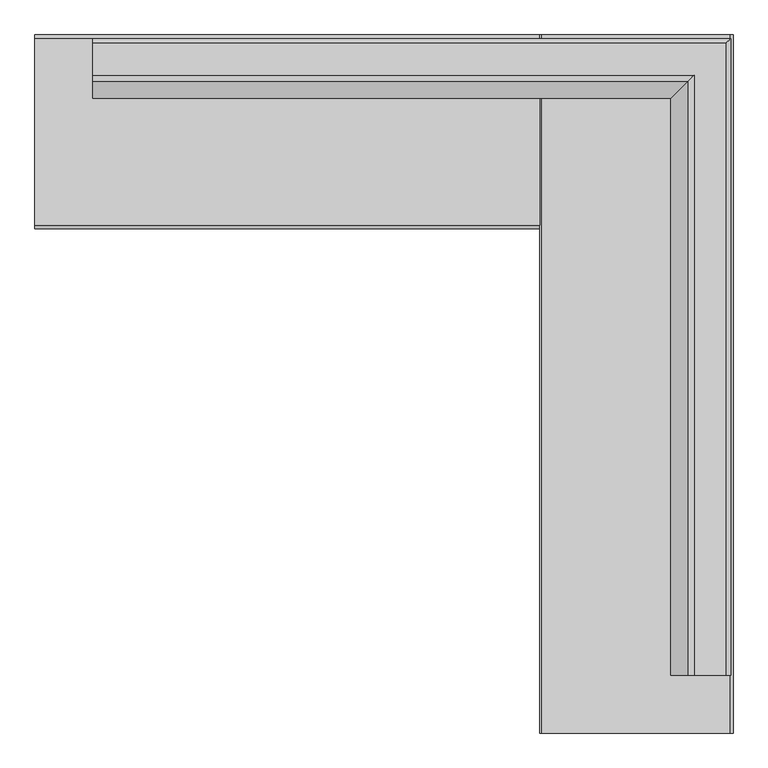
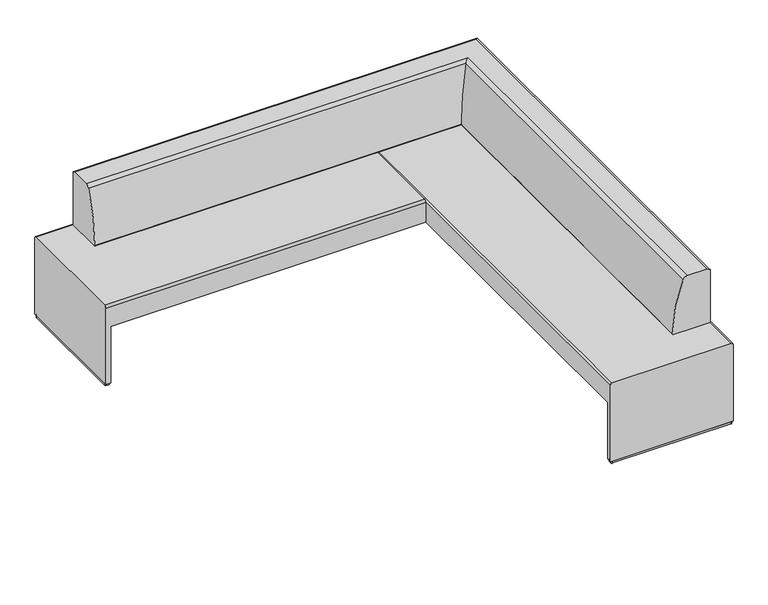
"""IFC4 building model written with IfcOpenShell, lengths in millimetres: furniture geometry, Coalesse_AM_Seating_Bench_Together_RightCorner : 8in Back Offset - 96.5D x 96.5W."""

from ifc_helpers import new_model, si_unit, point, frame, frame_2d, origin, origin_with_axes, place, context, project, spatial, polyline, circle_curve, ellipse_curve, trimmed, segment, composite_curve, outline, extrude, source, transform, mapped, element, save
from ifc_brep_helpers import plane_surface, cylinder_surface, advanced_brep


def furniture_85340afa(model_context):
    return source(origin(), model_context, "Body", "SolidModel", [
        advanced_brep(
        [(774.5287475, 2999.7334745, 461.0687949), (764.3687475, 2999.7334745, 471.2287949), (103.5774354, 2999.7334745, 471.2287949), (95.2070699, 2999.7334745, 462.8584293), (95.2070699, 2999.7334745, 12.7976677), (774.5287475, 2999.7334745, 12.7976677), (95.2070699, 5450.8334745, 343.3718099), (95.2070699, 5450.8334745, 462.8584293), (103.5774354, 5450.8334745, 471.2287949), (764.3687475, 5450.8334745, 471.2287949), (774.5287475, 5450.8334745, 461.0687949), (774.5287475, 5450.8334745, 343.3718099), (774.5287475, 3025.7251879, 343.3718099), (432.8174347, 3070.1341192, 343.3718099), (95.2070699, 3025.7251879, 343.3718099), (774.5287475, 3025.7251879, 12.7976677), (95.2070699, 3025.7251879, 12.7976677), (432.8174347, 3070.1341192, 12.7976677)],
        [
            (0, 1, circle_curve(frame((764.3687475, 2999.7334745, 461.0687949), z_axis=(0.0, -1.0, 0.0), x_axis=(-1.0, 0.0, 0.0)), 10.16)),
            (1, 2),
            (2, 3, circle_curve(frame((103.5774354, 2999.7334745, 462.8584293), z_axis=(0.0, -1.0, 0.0), x_axis=(-1.0, 0.0, 0.0)), 8.3703656)),
            (3, 4),
            (4, 5),
            (5, 0),
            (6, 7),
            (7, 8, circle_curve(frame((103.5774354, 5450.8334745, 462.8584293), z_axis=(0.0, 1.0, 0.0), x_axis=(-1.0, 0.0, 0.0)), 8.3703656)),
            (8, 9),
            (9, 10, circle_curve(frame((764.3687475, 5450.8334745, 461.0687949), z_axis=(0.0, 1.0, 0.0), x_axis=(-1.0, 0.0, 0.0)), 10.16)),
            (10, 11),
            (11, 6),
            (11, 12),
            (12, 13),
            (13, 14),
            (14, 6),
            (5, 15),
            (15, 12),
            (10, 0),
            (9, 1),
            (8, 2),
            (7, 3),
            (14, 16),
            (16, 4),
            (17, 15),
            (16, 17),
            (13, 17),
        ],
        [
            plane_surface(frame((733.0421326, 2999.7334745, 343.3718099), z_axis=(0.0, -1.0, 0.0), x_axis=(1.0, 0.0, 0.0))),
            plane_surface(frame((733.0421326, 5450.8334745, 343.3718099), z_axis=(0.0, 1.0, 0.0), x_axis=(-1.0, 0.0, 0.0))),
            plane_surface(frame((95.2070699, 2999.7334745, 343.3718099), z_axis=(0.0, 0.0, -1.0), x_axis=(0.0, 1.0, 0.0))),
            plane_surface(frame((774.5287475, 2999.7334745, 343.3718099), z_axis=(1.0, 0.0, 0.0), x_axis=(0.0, 1.0, 0.0))),
            cylinder_surface(frame((764.3687475, 5450.8334745, 461.0687949), z_axis=(0.0, -1.0, 0.0), x_axis=(-1.0, 0.0, 0.0)), 10.16),
            plane_surface(frame((764.3687475, 2999.7334745, 471.2287949), z_axis=(0.0, 0.0, 1.0), x_axis=(0.0, 1.0, 0.0))),
            cylinder_surface(frame((103.5774354, 5450.8334745, 462.8584293), z_axis=(0.0, -1.0, 0.0), x_axis=(-1.0, 0.0, 0.0)), 8.3703656),
            plane_surface(frame((95.2070699, 2999.7334745, 462.8584293), z_axis=(-1.0, 0.0, 0.0), x_axis=(0.0, 1.0, 0.0))),
            plane_surface(frame((432.8174347, 3070.1341192, 12.7976677), z_axis=(0.0, 0.0, -1.0000000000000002), x_axis=(0.9914594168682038, 0.13041558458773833, 0.0))),
            plane_surface(frame((432.8174347, 3070.1341192, 343.3718099), z_axis=(-0.13041558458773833, 0.9914594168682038, 0.0), x_axis=(0.0, 0.0, -1.0))),
            plane_surface(frame((774.5287475, 3025.7251879, 343.3718099), z_axis=(0.12887659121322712, 0.991660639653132, 0.0), x_axis=(0.0, 0.0, -1.0))),
        ],
        [
            (0, [[1, 2, 3, 4, 5, 6]]),
            (1, [[7, 8, 9, 10, 11, 12]]),
            (2, [[-12, 13, 14, 15, 16]]),
            (3, [[-6, 17, 18, -13, -11, 19]]),
            (4, [[-1, -19, -10, 20]]),
            (5, [[-2, -20, -9, 21]]),
            (6, [[-3, -21, -8, 22]]),
            (7, [[-4, -22, -7, -16, 23, 24]]),
            (8, [[25, -17, -5, -24, 26]]),
            (9, [[-26, -23, -15, 27]]),
            (10, [[-25, -27, -14, -18]]),
        ],
    ),
        advanced_brep(
        [(-1676.5712525, 4783.2670813, 471.2287949), (-1676.5712525, 5438.3536785, 471.2287949), (-1676.5712525, 5451.0536785, 458.5287949), (-1676.5712525, 5451.0536785, 12.7976677), (-1676.5712525, 4770.5670813, 12.7976677), (-1676.5712525, 4770.5670813, 458.5287949), (95.2070699, 4783.2670813, 471.2287949), (95.2070699, 4770.5670813, 458.5287949), (95.2070699, 4770.5670813, 343.3718099), (95.2070699, 5451.0536785, 343.3718099), (95.2070699, 5451.0536785, 458.5287949), (95.2070699, 5438.3536785, 471.2287949), (-1650.7015245, 5451.0536785, 343.3718099), (-1650.7025858, 5451.0536785, 12.7976677), (-1650.3955542, 4770.5670813, 343.3718099), (-1606.0629721, 5108.4198031, 343.3718099), (-1650.3944726, 4770.5670813, 12.7976677), (-1606.0629721, 5108.4198031, 12.7976677)],
        [
            (0, 1),
            (1, 2, circle_curve(frame((-1676.5712525, 5438.3536785, 458.5287949), z_axis=(-1.0, 0.0, 0.0), x_axis=(0.0, 1.0, 0.0)), 12.7)),
            (2, 3),
            (3, 4),
            (4, 5),
            (5, 0, circle_curve(frame((-1676.5712525, 4783.2670813, 458.5287949), z_axis=(-1.0, 0.0, 0.0), x_axis=(0.0, 1.0, 0.0)), 12.7)),
            (6, 7, circle_curve(frame((95.2070699, 4783.2670813, 458.5287949), z_axis=(1.0, 0.0, 0.0), x_axis=(0.0, 1.0, 0.0)), 12.7)),
            (7, 8),
            (8, 9),
            (9, 10),
            (10, 11, circle_curve(frame((95.2070699, 5438.3536785, 458.5287949), z_axis=(1.0, 0.0, 0.0), x_axis=(0.0, 1.0, 0.0)), 12.7)),
            (11, 6),
            (0, 6),
            (11, 1),
            (10, 2),
            (9, 12),
            (12, 13),
            (13, 3),
            (8, 14),
            (14, 15),
            (15, 12),
            (4, 16),
            (16, 14),
            (7, 5),
            (17, 16),
            (13, 17),
            (15, 17),
        ],
        [
            plane_surface(frame((-1676.5712525, 5450.8334745, 471.2287949), z_axis=(-1.0, 0.0, 0.0), x_axis=(0.0, 1.0, 0.0))),
            plane_surface(frame((95.2070699, 5450.8334745, 471.2287949), z_axis=(1.0, 0.0, 0.0), x_axis=(0.0, -1.0, 0.0))),
            plane_surface(frame((-1676.5712525, 4783.2670813, 471.2287949), z_axis=(0.0, 0.0, 1.0), x_axis=(1.0, 0.0, 0.0))),
            cylinder_surface(frame((95.2070699, 5438.3536785, 458.5287949), z_axis=(-1.0, 0.0, 0.0), x_axis=(0.0, 1.0, 0.0)), 12.7),
            plane_surface(frame((-1676.5712525, 5451.0536785, 458.5287949), z_axis=(0.0, 1.0, 0.0), x_axis=(1.0, 0.0, 0.0))),
            plane_surface(frame((-1676.5712525, 5451.0536785, 343.3718099), z_axis=(0.0, 0.0, -1.0), x_axis=(1.0, 0.0, 0.0))),
            plane_surface(frame((-1676.5712525, 4770.5670813, 343.3718099), z_axis=(0.0, -1.0, 0.0), x_axis=(1.0, 0.0, 0.0))),
            cylinder_surface(frame((95.2070699, 4783.2670813, 458.5287949), z_axis=(-1.0, 0.0, 0.0), x_axis=(0.0, 1.0, 0.0)), 12.7),
            plane_surface(frame((-1650.7025858, 5451.0618248, 12.7976677), z_axis=(0.0, 0.0, -1.0), x_axis=(0.12918886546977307, -0.9916200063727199, 0.0))),
            plane_surface(frame((-1606.0629721, 5108.4198031, 343.3718099), z_axis=(0.9916200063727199, 0.12918886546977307, 0.0), x_axis=(0.0, 0.0, -1.0))),
            plane_surface(frame((-1650.3944726, 4770.5753245, 343.3718099), z_axis=(0.9915004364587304, -0.1301033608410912, 0.0), x_axis=(0.0, 0.0, -1.0))),
        ],
        [
            (0, [[1, 2, 3, 4, 5, 6]]),
            (1, [[7, 8, 9, 10, 11, 12]]),
            (2, [[-1, 13, -12, 14]]),
            (3, [[-2, -14, -11, 15]]),
            (4, [[-3, -15, -10, 16, 17, 18]]),
            (5, [[-9, 19, 20, 21, -16]]),
            (6, [[-5, 22, 23, -19, -8, 24]]),
            (7, [[-6, -24, -7, -13]]),
            (8, [[25, -22, -4, -18, 26]]),
            (9, [[-26, -17, -21, 27]]),
            (10, [[-25, -27, -20, -23]]),
        ],
    ),
        extrude(outline(composite_curve([segment(polyline([(-1606.5189643, 5113.2843855), (-1651.5193515, 4782.1665875)]), True, "CONTINUOUS"), segment(trimmed(circle_curve(frame_2d((-1657.8115092, 4783.0217198)), 6.35), [point((-1651.5193515, 4782.1665875))], [point((-1657.8166959, 4776.6717219))], False, "CARTESIAN"), True, "CONTINUOUS"), segment(polyline([(-1657.8166959, 4776.6717219), (-1670.2739607, 4776.6818969)]), True, "CONTINUOUS"), segment(trimmed(circle_curve(frame_2d((-1670.268774, 4783.0318948)), 6.35), [point((-1670.2739607, 4776.6818969))], [point((-1676.6187719, 4783.0370815))], False, "CARTESIAN"), True, "CONTINUOUS"), segment(polyline([(-1676.6187719, 4783.0370815), (-1676.0832557, 5438.6681616)]), True, "CONTINUOUS"), segment(trimmed(circle_curve(frame_2d((-1669.7332578, 5438.6629749)), 6.35), [point((-1676.0832557, 5438.6681616))], [point((-1669.7280712, 5445.0129728))], False, "CARTESIAN"), True, "CONTINUOUS"), segment(polyline([(-1669.7280712, 5445.0129728), (-1657.2050538, 5445.0027441)]), True, "CONTINUOUS"), segment(trimmed(circle_curve(frame_2d((-1657.2107966, 5437.9717942)), 7.0309522), [point((-1657.2050538, 5445.0027441))], [point((-1650.2423843, 5438.9074858))], False, "CARTESIAN"), True, "CONTINUOUS"), segment(polyline([(-1650.2423843, 5438.9074858), (-1606.5189643, 5113.2843855)]), True, "CONTINUOUS")], self_intersect=False)), origin_with_axes(), (0.0, 0.0, 1.0), 12.7976677),
        extrude(outline(composite_curve([segment(polyline([(437.4499039, 5381.2236386), (106.2954602, 5425.9535555)]), True, "CONTINUOUS"), segment(trimmed(circle_curve(frame_2d((107.1454529, 5432.2464096)), 6.35), [point((106.2954602, 5425.9535555))], [point((100.7954529, 5432.2464096))], False, "CARTESIAN"), True, "CONTINUOUS"), segment(polyline([(100.7954529, 5432.2464096), (100.7954529, 5444.7036785)]), True, "CONTINUOUS"), segment(trimmed(circle_curve(frame_2d((107.1454529, 5444.7036785)), 6.35), [point((100.7954529, 5444.7036785))], [point((107.1454529, 5451.0536785))], False, "CARTESIAN"), True, "CONTINUOUS"), segment(polyline([(107.1454529, 5451.0536785), (762.7767517, 5451.0536785)]), True, "CONTINUOUS"), segment(trimmed(circle_curve(frame_2d((762.7767517, 5444.7036785)), 6.35), [point((762.7767517, 5451.0536785))], [point((769.1267517, 5444.7036785))], False, "CARTESIAN"), True, "CONTINUOUS"), segment(polyline([(769.1267517, 5444.7036785), (769.1267517, 5432.180657)]), True, "CONTINUOUS"), segment(trimmed(circle_curve(frame_2d((762.0957995, 5432.180657)), 7.0309522), [point((769.1267517, 5432.180657))], [point((763.0371826, 5425.2130112))], False, "CARTESIAN"), True, "CONTINUOUS"), segment(polyline([(763.0371826, 5425.2130112), (437.4499039, 5381.2236386)]), True, "CONTINUOUS")], self_intersect=False)), origin_with_axes(), (0.0, 0.0, 1.0), 12.7976677),
        extrude(outline(composite_curve([segment(polyline([(437.4499039, 3070.4466001), (763.0371826, 3026.4572274)]), True, "CONTINUOUS"), segment(trimmed(circle_curve(frame_2d((762.0957995, 3019.4895817)), 7.0309522), [point((763.0371826, 3026.4572274))], [point((769.1267517, 3019.4895817))], False, "CARTESIAN"), True, "CONTINUOUS"), segment(polyline([(769.1267517, 3019.4895817), (769.1267517, 3006.9665601)]), True, "CONTINUOUS"), segment(trimmed(circle_curve(frame_2d((762.7767517, 3006.9665601)), 6.35), [point((769.1267517, 3006.9665601))], [point((762.7767517, 3000.6165601))], False, "CARTESIAN"), True, "CONTINUOUS"), segment(polyline([(762.7767517, 3000.6165601), (107.1454529, 3000.6165601)]), True, "CONTINUOUS"), segment(trimmed(circle_curve(frame_2d((107.1454529, 3006.9665601)), 6.35), [point((107.1454529, 3000.6165601))], [point((100.7954529, 3006.9665601))], False, "CARTESIAN"), True, "CONTINUOUS"), segment(polyline([(100.7954529, 3006.9665601), (100.7954529, 3019.4238291)]), True, "CONTINUOUS"), segment(trimmed(circle_curve(frame_2d((107.1454529, 3019.4238291)), 6.35), [point((100.7954529, 3019.4238291))], [point((106.2954602, 3025.7166831))], False, "CARTESIAN"), True, "CONTINUOUS"), segment(polyline([(106.2954602, 3025.7166831), (437.4499039, 3070.4466001)]), True, "CONTINUOUS")], self_intersect=False)), origin_with_axes(), (0.0, 0.0, 1.0), 12.7976677),
        extrude(outline(polyline([(432.8174347, 5380.6530339), (95.2070699, 5425.0619651), (95.2070699, 5451.0536785), (774.6302917, 5451.0536785), (774.6302917, 5425.0751618), (432.8174347, 5380.6530339)])), frame((0.0, 0.0, 12.7976677), z_axis=(0.0, 0.0, 1.0), x_axis=(1.0, 0.0, 0.0)), (0.0, 0.0, 1.0), 330.5741422),
        advanced_brep(
        [(637.9650651, 3202.9334745, 789.6908243), (617.0761552, 3202.9334745, 775.9296487), (556.0897813, 3202.9334745, 477.5628851), (562.4397614, 3202.9334745, 471.2287949), (765.057783, 3202.9334745, 471.2287949), (765.819783, 3202.9334745, 471.9907949), (765.819783, 3202.9334745, 774.0501793), (750.179138, 3202.9334745, 789.6908243), (637.9650651, 5309.7765091, 789.6908243), (617.0761552, 5288.8875992, 775.9296487), (556.0897813, 5227.9012254, 477.5628851), (562.4397614, 5234.2512054, 471.2287949), (-1473.3712525, 5234.2512054, 471.2287949), (-1473.3712525, 5436.869227, 471.2287949), (765.057783, 5436.869227, 471.2287949), (765.819783, 5437.631227, 471.9907949), (765.819783, 5437.631227, 774.0501793), (750.179138, 5421.990582, 789.6908243), (-1473.3712525, 5421.990582, 789.6908243), (-1473.3712525, 5309.7765091, 789.6908243), (-1473.3712525, 5437.631227, 774.0501793), (-1473.3712525, 5437.631227, 471.9907949), (-1473.3712525, 5227.9012254, 477.5628851), (-1473.3712525, 5288.8875992, 775.9296487)],
        [
            (0, 1, circle_curve(frame((637.9650651, 3202.9334745, 766.9559749), z_axis=(0.0, -1.0, 0.0), x_axis=(-1.0, 0.0, 0.0)), 22.7348495)),
            (1, 2, circle_curve(frame((1307.2331615, 3202.9334745, 479.4448666), z_axis=(0.0, -1.0, 0.0), x_axis=(-1.0, 0.0, 0.0)), 751.1457378)),
            (2, 3, circle_curve(frame((562.4397614, 3202.9334745, 477.5787949), z_axis=(0.0, -1.0, 0.0), x_axis=(-1.0, 0.0, 0.0)), 6.35)),
            (3, 4),
            (4, 5, circle_curve(frame((765.057783, 3202.9334745, 471.9907949), z_axis=(0.0, -1.0, 0.0), x_axis=(-1.0, 0.0, 0.0)), 0.762)),
            (5, 6),
            (6, 7, circle_curve(frame((750.179138, 3202.9334745, 774.0501793), z_axis=(0.0, -1.0, 0.0), x_axis=(-1.0, 0.0, 0.0)), 15.6406451)),
            (7, 0),
            (0, 8),
            (8, 9, ellipse_curve(frame((637.9650651, 5309.7765091, 766.9559749), z_axis=(0.7071067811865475, -0.7071067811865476, 0.0), x_axis=(-0.7071067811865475, -0.7071067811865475, 0.0)), 32.1519324, 22.7348495)),
            (9, 1),
            (9, 10, ellipse_curve(frame((1307.2331615, 5979.0446055, 479.4448666), z_axis=(0.7071067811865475, -0.7071067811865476, 0.0), x_axis=(-0.7071067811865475, -0.7071067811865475, 0.0)), 1062.2804897, 751.1457378)),
            (10, 2),
            (10, 11, ellipse_curve(frame((562.4397614, 5234.2512054, 477.5787949), z_axis=(0.7071067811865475, -0.7071067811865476, 0.0), x_axis=(-0.7071067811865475, -0.7071067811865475, 0.0)), 8.9802561, 6.35)),
            (11, 3),
            (11, 12),
            (12, 13),
            (13, 14),
            (14, 4),
            (14, 15, ellipse_curve(frame((765.057783, 5436.869227, 471.9907949), z_axis=(0.7071067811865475, -0.7071067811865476, 0.0), x_axis=(-0.7071067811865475, -0.7071067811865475, 0.0)), 1.0776307, 0.762)),
            (15, 5),
            (15, 16),
            (16, 6),
            (16, 17, ellipse_curve(frame((750.179138, 5421.990582, 774.0501793), z_axis=(0.7071067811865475, -0.7071067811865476, 0.0), x_axis=(-0.7071067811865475, -0.7071067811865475, 0.0)), 22.1192124, 15.6406451)),
            (17, 7),
            (17, 18),
            (18, 19),
            (19, 8),
            (18, 20, circle_curve(frame((-1473.3712525, 5421.990582, 774.0501793), z_axis=(-1.0, 0.0, 0.0), x_axis=(0.0, -1.0, 0.0)), 15.6406451)),
            (20, 21),
            (21, 13, circle_curve(frame((-1473.3712525, 5436.869227, 471.9907949), z_axis=(-1.0, 0.0, 0.0), x_axis=(0.0, -1.0, 0.0)), 0.762)),
            (12, 22, circle_curve(frame((-1473.3712525, 5234.2512054, 477.5787949), z_axis=(-1.0, 0.0, 0.0), x_axis=(0.0, -1.0, 0.0)), 6.35)),
            (22, 23, circle_curve(frame((-1473.3712525, 5979.0446055, 479.4448666), z_axis=(-1.0, 0.0, 0.0), x_axis=(0.0, -1.0, 0.0)), 751.1457378)),
            (23, 19, circle_curve(frame((-1473.3712525, 5309.7765091, 766.9559749), z_axis=(-1.0, 0.0, 0.0), x_axis=(0.0, -1.0, 0.0)), 22.7348495)),
            (23, 9),
            (22, 10),
            (21, 15),
            (20, 16),
        ],
        [
            plane_surface(frame((555.2553454, 3202.9334745, 0.0), z_axis=(0.0, -1.0, 0.0), x_axis=(0.0, 0.0, 1.0))),
            cylinder_surface(frame((637.9650651, 3202.9334745, 766.9559749), z_axis=(0.0, -1.0, 0.0), x_axis=(-1.0, 0.0, 0.0)), 22.7348495),
            cylinder_surface(frame((1307.2331615, 3202.9334745, 479.4448666), z_axis=(0.0, -1.0, 0.0), x_axis=(-1.0, 0.0, 0.0)), 751.1457378),
            cylinder_surface(frame((562.4397614, 3202.9334745, 477.5787949), z_axis=(0.0, -1.0, 0.0), x_axis=(-1.0, 0.0, 0.0)), 6.35),
            plane_surface(frame((562.4397614, 3202.9334745, 471.2287949), z_axis=(0.0, 0.0, -1.0), x_axis=(0.0, 1.0, 0.0))),
            cylinder_surface(frame((765.057783, 3202.9334745, 471.9907949), z_axis=(0.0, -1.0, 0.0), x_axis=(-1.0, 0.0, 0.0)), 0.762),
            plane_surface(frame((765.819783, 3202.9334745, 471.9907949), z_axis=(1.0, 0.0, 0.0), x_axis=(0.0, 1.0, 0.0))),
            cylinder_surface(frame((750.179138, 3202.9334745, 774.0501793), z_axis=(0.0, -1.0, 0.0), x_axis=(-1.0, 0.0, 0.0)), 15.6406451),
            plane_surface(frame((750.179138, 3202.9334745, 789.6908243), z_axis=(0.0, 0.0, 1.0), x_axis=(0.0, 1.0, 0.0))),
            plane_surface(frame((-1473.3712525, 5227.0667894, 0.0), z_axis=(-1.0, 0.0, 0.0), x_axis=(0.0, 0.0, 1.0))),
            cylinder_surface(frame((555.2553454, 5309.7765091, 766.9559749), z_axis=(1.0, 0.0, 0.0), x_axis=(0.0, -1.0, 0.0)), 22.7348495),
            cylinder_surface(frame((555.2553454, 5979.0446055, 479.4448666), z_axis=(1.0, 0.0, 0.0), x_axis=(0.0, -1.0, 0.0)), 751.1457378),
            cylinder_surface(frame((555.2553454, 5234.2512054, 477.5787949), z_axis=(1.0, 0.0, 0.0), x_axis=(0.0, -1.0, 0.0)), 6.35),
            cylinder_surface(frame((555.2553454, 5436.869227, 471.9907949), z_axis=(1.0, 0.0, 0.0), x_axis=(0.0, -1.0, 0.0)), 0.762),
            plane_surface(frame((765.819783, 5437.631227, 471.9907949), z_axis=(0.0, 1.0, 0.0), x_axis=(-1.0, 0.0, 0.0))),
            cylinder_surface(frame((555.2553454, 5421.990582, 774.0501793), z_axis=(1.0, 0.0, 0.0), x_axis=(0.0, -1.0, 0.0)), 15.6406451),
        ],
        [
            (0, [[1, 2, 3, 4, 5, 6, 7, 8]]),
            (1, [[-1, 9, 10, 11]]),
            (2, [[-2, -11, 12, 13]]),
            (3, [[-3, -13, 14, 15]]),
            (4, [[-4, -15, 16, 17, 18, 19]]),
            (5, [[-5, -19, 20, 21]]),
            (6, [[-6, -21, 22, 23]]),
            (7, [[-7, -23, 24, 25]]),
            (8, [[-8, -25, 26, 27, 28, -9]]),
            (9, [[-27, 29, 30, 31, -17, 32, 33, 34]]),
            (10, [[-10, -28, -34, 35]]),
            (11, [[-12, -35, -33, 36]]),
            (12, [[-14, -36, -32, -16]]),
            (13, [[-20, -18, -31, 37]]),
            (14, [[-22, -37, -30, 38]]),
            (15, [[-24, -38, -29, -26]]),
        ],
    ),
    ])


if __name__ == "__main__":
    model = new_model("IFC4")
    model_context = context("Model", 3, world=origin())
    ifc_project = project(units=[si_unit("LENGTHUNIT", "METRE", prefix="MILLI")], contexts=[model_context])
    site = spatial("IfcSite", under=ifc_project)
    building = spatial("IfcBuilding", under=site)
    placement = place(None, origin())
    furniture_shape = furniture_85340afa(model_context)
    element("IfcFurniture", 1, ObjectType="Coalesse_AM_Seating_Bench_Together_RightCorner : 8in Back Offset - 96.5D x 96.5W", at=placement, inside=building, context=model_context, shape_type="MappedRepresentation", body=[
        mapped(furniture_shape, transform((0.0, 0.0, 0.0), x_axis=(1.0, 0.0, 0.0), y_axis=(0.0, 1.0, 0.0), z_axis=(0.0, 0.0, 1.0))),
    ])
    save(model, "model.ifc")
